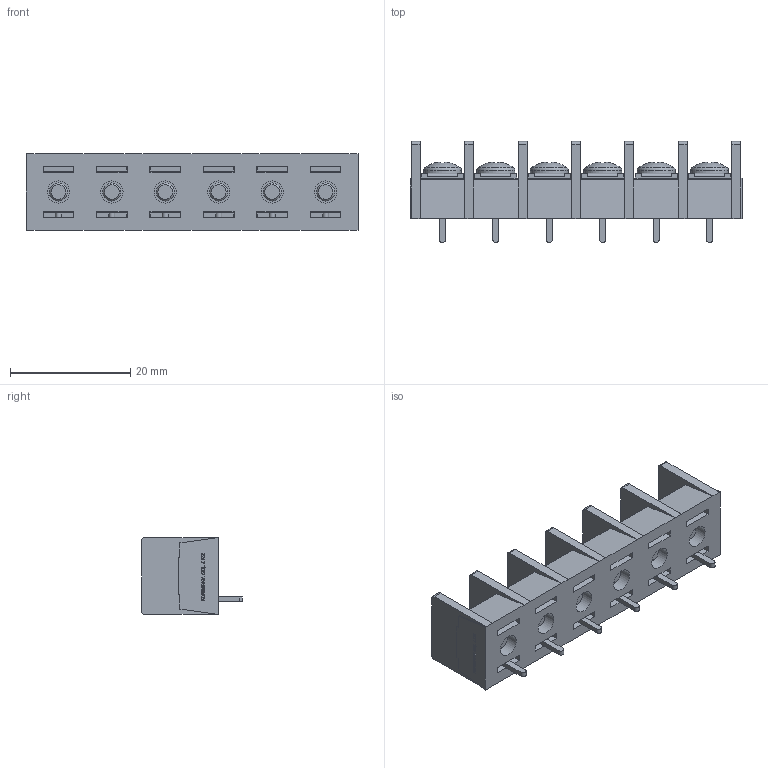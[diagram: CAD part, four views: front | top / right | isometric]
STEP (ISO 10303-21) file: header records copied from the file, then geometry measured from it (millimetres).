
FILE_DESCRIPTION(/* description */ ('Alibre Inc.'),/* implementation_level */ '2;1');
FILE_NAME(/* name */ 'export0',/* time_stamp */ '2015-10-20T08:13:30+09:00',/* author */ (''),/* organization */ (''),/* preprocessor_version */ 'ST-DEVELOPER v14',/* originating_system */ 'Alibre',/* authorisation */ '');
FILE_SCHEMA (('CONFIG_CONTROL_DESIGN'));
Length unit declared in the file: centimetre
Products named in the file (1): ID_1
Bounding box: 55.25 x 16.8 x 12.8 mm (x, y, z)
Volume: 5164.1 mm3; surface area: 6461.1 mm2
Topology: 1 solids, 103 shells, 2076 faces, 5342 edges, 3536 vertices
Faces by surface type: plane 1550, bspline 416, cylinder 62, cone 30, torus 12, sphere 6
Full cylindrical faces by diameter (mm): 3 x12, 3.7 x6, 4.6 x6, 6.3 x6
Entity records: 60075 total; most frequent: CARTESIAN_POINT 14603, ORIENTED_EDGE 10552, DIRECTION 6232, EDGE_CURVE 5276, VECTOR 4072, LINE 4072, VERTEX_POINT 3518, EDGE_LOOP 2272
